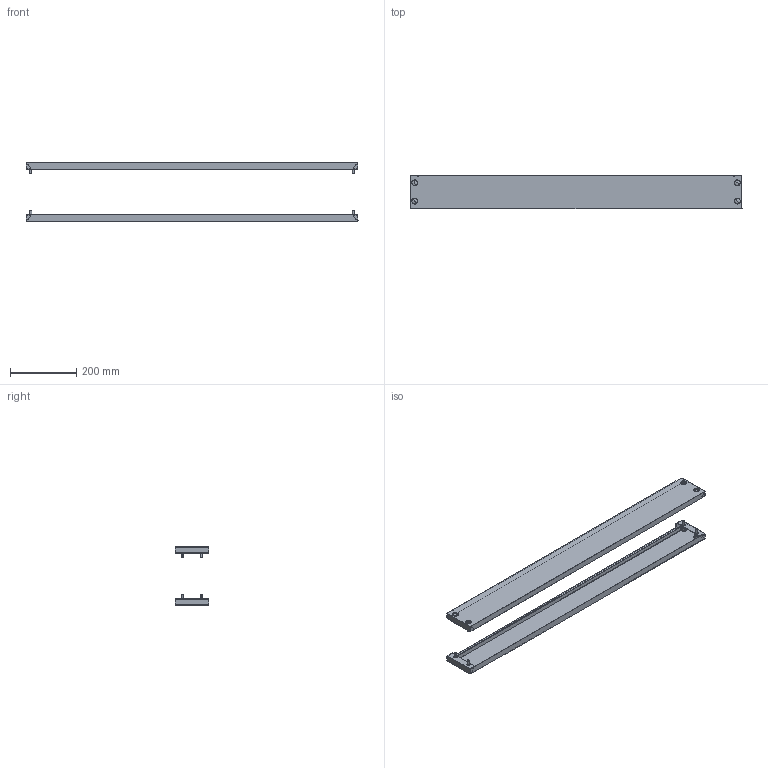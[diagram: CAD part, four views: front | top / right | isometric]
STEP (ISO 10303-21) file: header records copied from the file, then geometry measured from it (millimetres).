
FILE_DESCRIPTION (( 'STEP AP203' ), '1' );
FILE_NAME ('R5FZ1-200.STEP', '2025-06-18T08:39:45', ( '' ), ( '' ), 'SwSTEP 2.0', 'SolidWorks 2022', '' );
FILE_SCHEMA (( 'CONFIG_CONTROL_DESIGN' ));
Length unit declared in the file: millimetre
Products named in the file (5): Plug_11.5-13Д18ЧК_-00; 6 DIN 6798 A Zinc; R5FZ1-200; RB.1055.00.00.0 simple_-04 (1000); M6x16 DIN 912 HX cl.4,8 Zinc_stright
Assembly tree (26 placements, depth 2):
  R5FZ1-200
    RB.1055.00.00.0 simple_-04 (1000)  x2
    M6x16 DIN 912 HX cl.4,8 Zinc_stright  x8
    6 DIN 6798 A Zinc  x8
    Plug_11.5-13Д18ЧК_-00  x8
Bounding box: 999 x 100.05 x 178.5 mm (x, y, z)
Volume: 473580.9 mm3; surface area: 640543.7 mm2
Topology: 26 solids, 26 shells, 1196 faces, 3456 edges, 2112 vertices
Faces by surface type: plane 700, bspline 208, cylinder 128, cone 96, torus 48, sphere 16
Entity records: 9921 total; most frequent: CARTESIAN_POINT 2626, ORIENTED_EDGE 1352, DIRECTION 1188, EDGE_CURVE 676, LINE 448, VECTOR 448, VERTEX_POINT 444, AXIS2_PLACEMENT_3D 370
